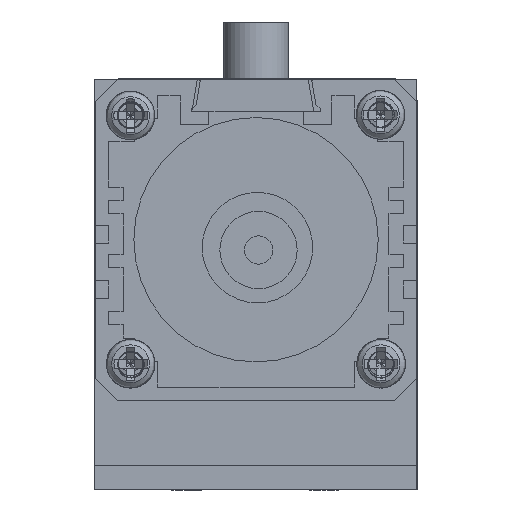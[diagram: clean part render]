
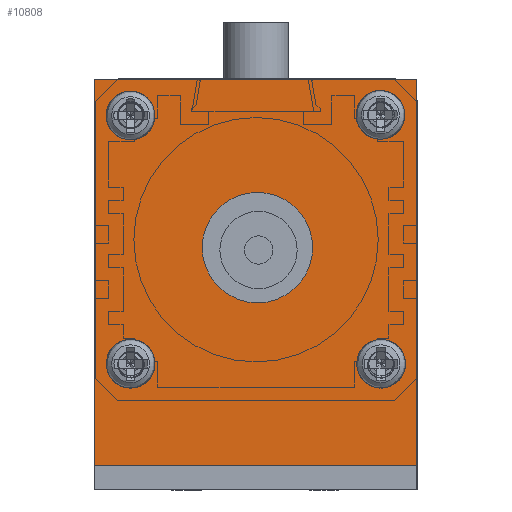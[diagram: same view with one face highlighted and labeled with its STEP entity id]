
A CAD part, front view. The second image highlights one B-rep face of the part: STEP entity #10808.
In plain terms, the highlighted planar face has unit normal (0, -1, 0).
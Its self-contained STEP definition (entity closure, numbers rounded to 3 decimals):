
#10714=CARTESIAN_POINT('',(537.146,6605.204,1359.325));
#10715=DIRECTION('',(0.0,-1.0,0.0));
#10716=DIRECTION('',(0.0,0.0,-1.0));
#10717=AXIS2_PLACEMENT_3D('',#10714,#10715,#10716);
#10718=PLANE('',#10717);
#10719=CARTESIAN_POINT('',(537.87,6605.204,1361.099));
#10720=VERTEX_POINT('',#10719);
#10721=CARTESIAN_POINT('',(536.424,6605.204,1361.099));
#10722=VERTEX_POINT('',#10721);
#10723=CARTESIAN_POINT('',(537.87,6605.204,1361.099));
#10724=DIRECTION('',(-1.0,0.0,0.0));
#10725=VECTOR('',#10724,1.447);
#10726=LINE('',#10723,#10725);
#10727=EDGE_CURVE('',#10720,#10722,#10726,.T.);
#10728=ORIENTED_EDGE('',*,*,#10727,.T.);
#10729=CARTESIAN_POINT('',(536.421,6605.204,1359.36));
#10730=VERTEX_POINT('',#10729);
#10731=CARTESIAN_POINT('',(536.424,6605.204,1361.099));
#10732=DIRECTION('',(-0.002,0.0,-1.));
#10733=VECTOR('',#10732,1.739);
#10734=LINE('',#10731,#10733);
#10735=EDGE_CURVE('',#10722,#10730,#10734,.T.);
#10736=ORIENTED_EDGE('',*,*,#10735,.T.);
#10737=CARTESIAN_POINT('',(537.87,6605.204,1359.36));
#10738=VERTEX_POINT('',#10737);
#10739=CARTESIAN_POINT('',(536.421,6605.204,1359.36));
#10740=DIRECTION('',(1.0,0.0,0.0));
#10741=VECTOR('',#10740,1.45);
#10742=LINE('',#10739,#10741);
#10743=EDGE_CURVE('',#10730,#10738,#10742,.T.);
#10744=ORIENTED_EDGE('',*,*,#10743,.T.);
#10745=CARTESIAN_POINT('',(537.87,6605.204,1359.36));
#10746=DIRECTION('',(0.0,0.0,1.0));
#10747=VECTOR('',#10746,1.739);
#10748=LINE('',#10745,#10747);
#10749=EDGE_CURVE('',#10738,#10720,#10748,.T.);
#10750=ORIENTED_EDGE('',*,*,#10749,.T.);
#10751=EDGE_LOOP('',(#10728,#10736,#10744,#10750));
#10752=FACE_OUTER_BOUND('',#10751,.T.);
#10753=CARTESIAN_POINT('',(536.907,6605.204,1360.34));
#10754=VERTEX_POINT('',#10753);
#10755=CARTESIAN_POINT('',(537.156,6605.204,1360.34));
#10756=DIRECTION('',(0.0,1.0,0.0));
#10757=DIRECTION('',(1.0,0.0,0.0));
#10758=AXIS2_PLACEMENT_3D('',#10755,#10756,#10757);
#10759=CIRCLE('',#10758,0.249);
#10760=EDGE_CURVE('',#10754,#10754,#10759,.T.);
#10761=ORIENTED_EDGE('',*,*,#10760,.T.);
#10762=EDGE_LOOP('',(#10761));
#10763=FACE_BOUND('',#10762,.T.);
#10764=CARTESIAN_POINT('',(537.71,6605.204,1360.995));
#10765=VERTEX_POINT('',#10764);
#10766=CARTESIAN_POINT('',(537.71,6605.204,1360.938));
#10767=DIRECTION('',(0.0,1.0,0.0));
#10768=DIRECTION('',(0.,0.0,-1.0));
#10769=AXIS2_PLACEMENT_3D('',#10766,#10767,#10768);
#10770=CIRCLE('',#10769,0.057);
#10771=EDGE_CURVE('',#10765,#10765,#10770,.T.);
#10772=ORIENTED_EDGE('',*,*,#10771,.T.);
#10773=EDGE_LOOP('',(#10772));
#10774=FACE_BOUND('',#10773,.T.);
#10775=CARTESIAN_POINT('',(536.585,6605.204,1360.995));
#10776=VERTEX_POINT('',#10775);
#10777=CARTESIAN_POINT('',(536.585,6605.204,1360.935));
#10778=DIRECTION('',(0.0,1.0,0.0));
#10779=DIRECTION('',(0.,0.0,-1.0));
#10780=AXIS2_PLACEMENT_3D('',#10777,#10778,#10779);
#10781=CIRCLE('',#10780,0.06);
#10782=EDGE_CURVE('',#10776,#10776,#10781,.T.);
#10783=ORIENTED_EDGE('',*,*,#10782,.T.);
#10784=EDGE_LOOP('',(#10783));
#10785=FACE_BOUND('',#10784,.T.);
#10786=CARTESIAN_POINT('',(536.528,6605.204,1359.813));
#10787=VERTEX_POINT('',#10786);
#10788=CARTESIAN_POINT('',(536.585,6605.204,1359.813));
#10789=DIRECTION('',(0.0,1.0,0.0));
#10790=DIRECTION('',(1.0,0.0,0.));
#10791=AXIS2_PLACEMENT_3D('',#10788,#10789,#10790);
#10792=CIRCLE('',#10791,0.057);
#10793=EDGE_CURVE('',#10787,#10787,#10792,.T.);
#10794=ORIENTED_EDGE('',*,*,#10793,.T.);
#10795=EDGE_LOOP('',(#10794));
#10796=FACE_BOUND('',#10795,.T.);
#10797=CARTESIAN_POINT('',(537.773,6605.204,1359.813));
#10798=VERTEX_POINT('',#10797);
#10799=CARTESIAN_POINT('',(537.713,6605.204,1359.813));
#10800=DIRECTION('',(0.0,1.0,0.0));
#10801=DIRECTION('',(-1.0,0.0,0.0));
#10802=AXIS2_PLACEMENT_3D('',#10799,#10800,#10801);
#10803=CIRCLE('',#10802,0.06);
#10804=EDGE_CURVE('',#10798,#10798,#10803,.T.);
#10805=ORIENTED_EDGE('',*,*,#10804,.T.);
#10806=EDGE_LOOP('',(#10805));
#10807=FACE_BOUND('',#10806,.T.);
#10808=ADVANCED_FACE('',(#10752,#10763,#10774,#10785,#10796,#10807),#10718,.T.);
